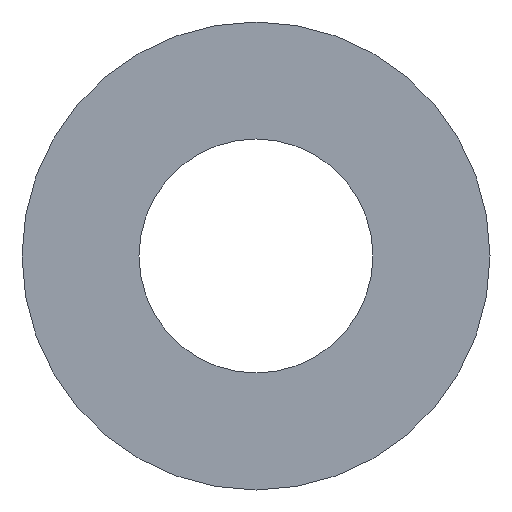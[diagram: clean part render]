
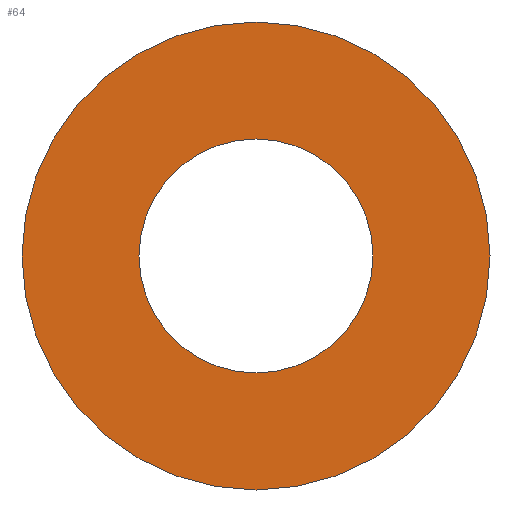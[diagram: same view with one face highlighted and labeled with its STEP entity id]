
A CAD part, front view. The second image highlights one B-rep face of the part: STEP entity #64.
In plain terms, the highlighted planar face has unit normal (0, -1, 0).
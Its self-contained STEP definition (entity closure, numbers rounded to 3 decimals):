
#16=FACE_BOUND('',#28,.T.);
#18=PLANE('',#86);
#22=FACE_OUTER_BOUND('',#27,.T.);
#27=EDGE_LOOP('',(#57));
#28=EDGE_LOOP('',(#58));
#34=CIRCLE('',#81,1.5);
#36=CIRCLE('',#84,3.);
#38=VERTEX_POINT('',#111);
#40=VERTEX_POINT('',#117);
#43=EDGE_CURVE('',#38,#38,#34,.T.);
#46=EDGE_CURVE('',#40,#40,#36,.T.);
#57=ORIENTED_EDGE('',*,*,#46,.F.);
#58=ORIENTED_EDGE('',*,*,#43,.F.);
#64=ADVANCED_FACE('',(#22,#16),#18,.F.);
#81=AXIS2_PLACEMENT_3D('',#113,#94,#95);
#84=AXIS2_PLACEMENT_3D('',#119,#101,#102);
#86=AXIS2_PLACEMENT_3D('',#121,#105,#106);
#94=DIRECTION('center_axis',(0.,-1.,0.));
#95=DIRECTION('ref_axis',(1.,0.,0.));
#101=DIRECTION('center_axis',(0.,1.,0.));
#102=DIRECTION('ref_axis',(1.,0.,0.));
#105=DIRECTION('center_axis',(0.,1.,0.));
#106=DIRECTION('ref_axis',(1.,0.,0.));
#111=CARTESIAN_POINT('',(-1.5,0.,0.));
#113=CARTESIAN_POINT('Origin',(0.,0.,0.));
#117=CARTESIAN_POINT('',(-3.,0.,0.));
#119=CARTESIAN_POINT('Origin',(0.,0.,0.));
#121=CARTESIAN_POINT('Origin',(0.,0.,0.));
